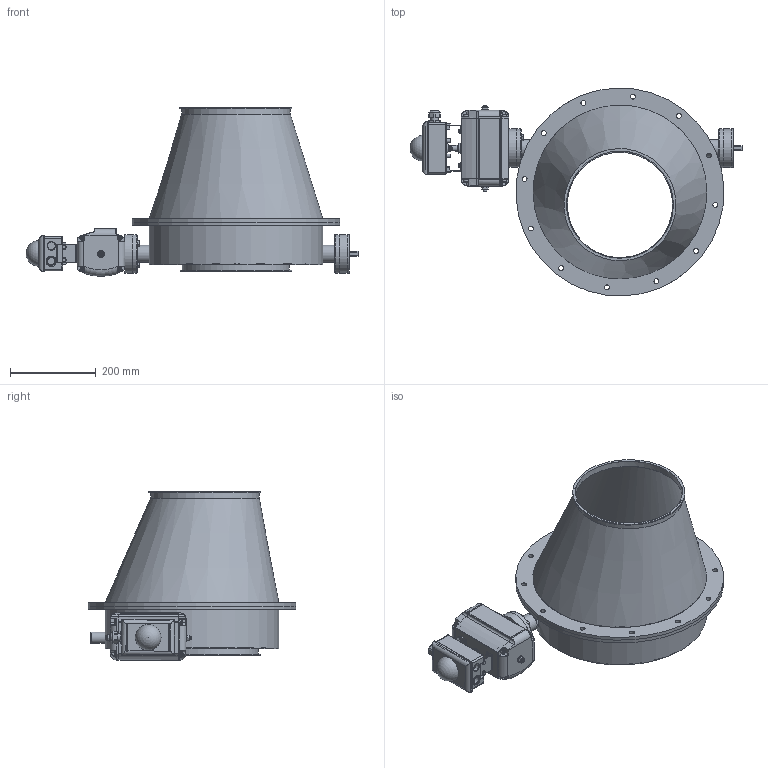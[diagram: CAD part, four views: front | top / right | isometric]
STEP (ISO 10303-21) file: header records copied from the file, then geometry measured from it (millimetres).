
FILE_DESCRIPTION((''),'2;1');
FILE_NAME('U:\Wolfgang\Marcel-3D\fertig\Kapitel 8\2521218.stp','2012-01-13T11:13:27',('iwienholt'),(''),'Autodesk Inventor 2010','Autodesk Inventor 2010','');
FILE_SCHEMA(('AUTOMOTIVE_DESIGN { 1 0 10303 214 1 1 1 1 }'));
Length unit declared in the file: millimetre
Products named in the file (25): 2521218; 2521218-1; 04081301; wellenendeD20; Buchse D20 90-50; LagerdeckelD20; PendelkugellagerD20; EndstückD20; WellenendeD20 mit Antrieb; DIN EN ISO 4018 M8x35; Pneumatischer SchwenkantriebS85D-2; Body; roter Verschluss; A1 Schwenkantrieb S85D; Body S085D; DIN EN ISO 4018 M5x10; DIN 125-1 A A 13; End Cap L85; End Cap R85; DIN 125-1 A A 8,4; DIN 916 M8  x  40; DIN 555 - ersetzt durch DIN EN 24034 M8; DIN EN ISO 4762 M6 x 12; Halterung; Deckel2
Assembly tree (49 placements, depth 5):
  2521218
    2521218-1
    04081301  x2
    wellenendeD20
      Buchse D20 90-50
      LagerdeckelD20
      PendelkugellagerD20
      EndstückD20
    WellenendeD20 mit Antrieb
      Buchse D20 90-50
      PendelkugellagerD20
      DIN EN ISO 4018 M8x35  x4
      Pneumatischer SchwenkantriebS85D-2
        Body
        roter Verschluss
        A1 Schwenkantrieb S85D
          Body S085D
          DIN EN ISO 4018 M5x10  x4
          DIN 125-1 A A 13  x2
          End Cap L85
          End Cap R85
          DIN 125-1 A A 8,4  x2
          DIN 916 M8  x  40  x2
          DIN 555 - ersetzt durch DIN EN 24034 M8  x2
          DIN EN ISO 4762 M6 x 12  x8
        Halterung  x2
        DIN EN ISO 4018 M5x10  x4
        Deckel2
Bounding box: 772.5 x 483.61 x 392.23 mm (x, y, z)
Volume: 4529305.8 mm3; surface area: 1696400.3 mm2
Topology: 47 solids, 47 shells, 1024 faces, 2372 edges, 1509 vertices
Faces by surface type: plane 498, cylinder 207, bspline 149, cone 130, torus 39, sphere 1
Full cylindrical faces by diameter (mm): 3.242 x4, 5 x10, 6 x8, 6.647 x4, 8 x10, 8.376 x1, 8.4 x2, 10 x8, 11.9 x2, 12.5 x1, 13 x5, 14 x1, 16 x2, 17 x1, 17.79 x2, 18 x3, 20.5 x2, 22 x1, 22.4 x1, 23 x2, 24 x3, 26.4 x1, 28.5 x1, 30 x3, 36 x2, 40 x5, 47 x2, 90 x5, 249 x1, 253 x1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
Entity records: 25668 total; most frequent: CARTESIAN_POINT 10688, DIRECTION 2942, ORIENTED_EDGE 2646, EDGE_CURVE 1323, AXIS2_PLACEMENT_3D 1147, EDGE_LOOP 957, VERTEX_POINT 932, FACE_OUTER_BOUND 649
